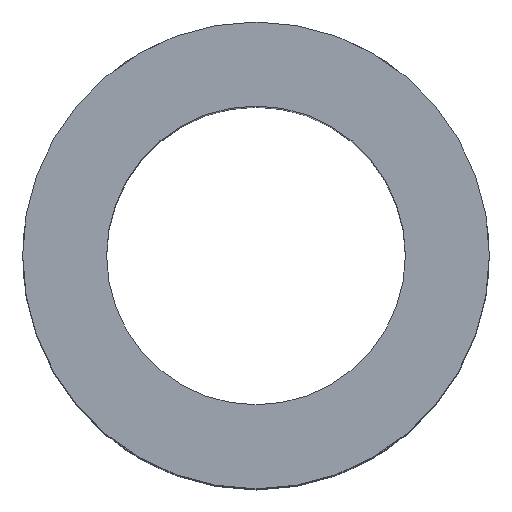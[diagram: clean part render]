
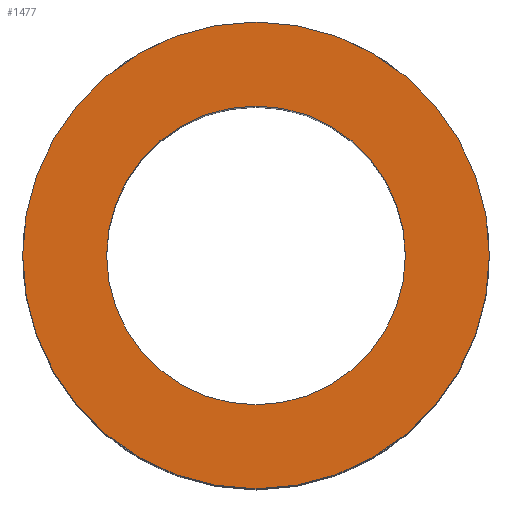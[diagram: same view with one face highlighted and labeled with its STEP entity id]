
A CAD part, top view. The second image highlights one B-rep face of the part: STEP entity #1477.
In plain terms, the highlighted planar face has unit normal (0, 0, 1).
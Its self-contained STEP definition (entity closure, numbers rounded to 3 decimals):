
#51=CARTESIAN_POINT('',(-19.844,0.,56.9));
#52=VERTEX_POINT('',#51);
#68=CARTESIAN_POINT('',(19.844,0.,56.9));
#69=VERTEX_POINT('',#68);
#76=CARTESIAN_POINT('',(0.0,0.0,56.9));
#77=DIRECTION('',(0.0,0.0,-1.0));
#78=DIRECTION('',(-1.0,0.0,0.0));
#79=AXIS2_PLACEMENT_3D('',#76,#77,#78);
#80=CIRCLE('',#79,19.844);
#81=EDGE_CURVE('',#69,#52,#80,.T.);
#91=CARTESIAN_POINT('',(-12.7,0.,56.9));
#92=VERTEX_POINT('',#91);
#101=CARTESIAN_POINT('',(12.7,0.,56.9));
#102=VERTEX_POINT('',#101);
#103=CARTESIAN_POINT('',(0.0,0.0,56.9));
#104=DIRECTION('',(0.0,0.0,-1.0));
#105=DIRECTION('',(-1.0,0.0,0.0));
#106=AXIS2_PLACEMENT_3D('',#103,#104,#105);
#107=CIRCLE('',#106,12.7);
#108=EDGE_CURVE('',#102,#92,#107,.T.);
#1436=CARTESIAN_POINT('',(0.0,0.0,56.9));
#1437=DIRECTION('',(0.0,0.0,-1.0));
#1438=DIRECTION('',(-1.0,0.0,0.0));
#1439=AXIS2_PLACEMENT_3D('',#1436,#1437,#1438);
#1440=CIRCLE('',#1439,12.7);
#1441=EDGE_CURVE('',#92,#102,#1440,.T.);
#1452=CARTESIAN_POINT('',(0.0,0.0,56.9));
#1453=DIRECTION('',(0.0,0.0,-1.0));
#1454=DIRECTION('',(-1.0,0.0,0.0));
#1455=AXIS2_PLACEMENT_3D('',#1452,#1453,#1454);
#1456=CIRCLE('',#1455,19.844);
#1457=EDGE_CURVE('',#52,#69,#1456,.T.);
#1464=CARTESIAN_POINT('',(0.0,0.0,56.9));
#1465=DIRECTION('',(0.0,0.0,-1.0));
#1466=DIRECTION('',(-1.0,0.0,0.0));
#1467=AXIS2_PLACEMENT_3D('',#1464,#1465,#1466);
#1468=PLANE('',#1467);
#1469=ORIENTED_EDGE('',*,*,#81,.F.);
#1470=ORIENTED_EDGE('',*,*,#1457,.F.);
#1471=EDGE_LOOP('',(#1469,#1470));
#1472=FACE_OUTER_BOUND('',#1471,.T.);
#1473=ORIENTED_EDGE('',*,*,#108,.T.);
#1474=ORIENTED_EDGE('',*,*,#1441,.T.);
#1475=EDGE_LOOP('',(#1473,#1474));
#1476=FACE_BOUND('',#1475,.T.);
#1477=ADVANCED_FACE('',(#1472,#1476),#1468,.F.);
